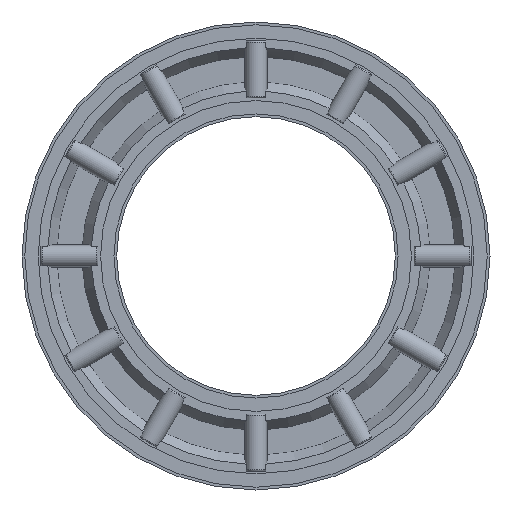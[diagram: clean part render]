
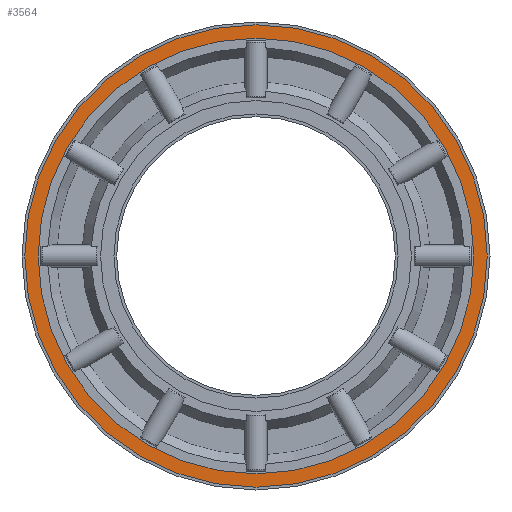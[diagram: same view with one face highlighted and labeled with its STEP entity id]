
A CAD part, front view. The second image highlights one B-rep face of the part: STEP entity #3564.
In plain terms, the highlighted planar face has unit normal (0, -1, 0) as drawn and (0, 1, 0) by its records, which use the part's own axes.
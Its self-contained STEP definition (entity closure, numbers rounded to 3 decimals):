
#77=FACE_BOUND('',#558,.T.);
#212=PLANE('',#3924);
#377=FACE_OUTER_BOUND('',#557,.T.);
#557=EDGE_LOOP('',(#3258));
#558=EDGE_LOOP('',(#3259));
#771=CIRCLE('',#3923,20.75);
#772=CIRCLE('',#3925,19.55);
#1716=VERTEX_POINT('',#7158);
#1717=VERTEX_POINT('',#7161);
#2257=EDGE_CURVE('',#1716,#1716,#771,.T.);
#2258=EDGE_CURVE('',#1717,#1717,#772,.T.);
#3258=ORIENTED_EDGE('',*,*,#2257,.T.);
#3259=ORIENTED_EDGE('',*,*,#2258,.F.);
#3564=ADVANCED_FACE('',(#377,#77),#212,.T.);
#3923=AXIS2_PLACEMENT_3D('',#7159,#4877,#4878);
#3924=AXIS2_PLACEMENT_3D('',#7160,#4879,#4880);
#3925=AXIS2_PLACEMENT_3D('',#7162,#4881,#4882);
#4877=DIRECTION('center_axis',(0.,1.,0.));
#4878=DIRECTION('ref_axis',(1.,0.,0.));
#4879=DIRECTION('center_axis',(0.,1.,0.));
#4880=DIRECTION('ref_axis',(0.,0.,1.));
#4881=DIRECTION('center_axis',(0.,1.,0.));
#4882=DIRECTION('ref_axis',(1.,0.,0.));
#7158=CARTESIAN_POINT('',(-20.75,-0.65,0.));
#7159=CARTESIAN_POINT('Origin',(0.,-0.65,0.));
#7160=CARTESIAN_POINT('Origin',(-19.55,-0.65,0.));
#7161=CARTESIAN_POINT('',(-19.55,-0.65,0.));
#7162=CARTESIAN_POINT('Origin',(0.,-0.65,0.));
